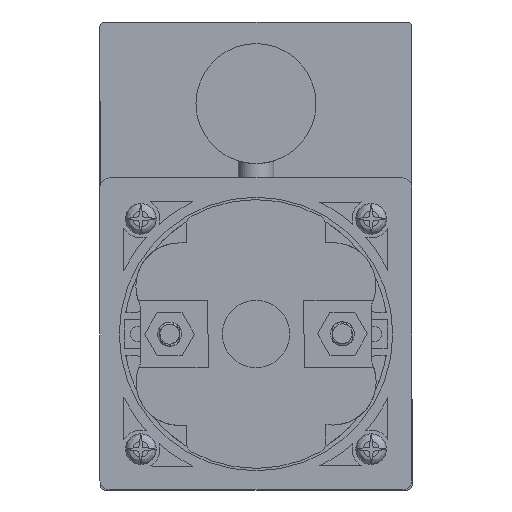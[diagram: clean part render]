
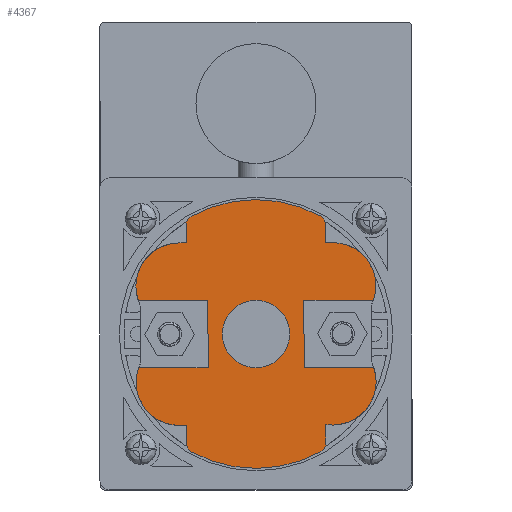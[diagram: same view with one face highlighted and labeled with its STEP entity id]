
A CAD part, front view. The second image highlights one B-rep face of the part: STEP entity #4367.
In plain terms, the highlighted planar face has unit normal (0, -1, 0).
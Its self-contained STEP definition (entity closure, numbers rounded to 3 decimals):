
#4367=ADVANCED_FACE('',(#10052,#10053),#5499,.F.);
#5499=PLANE('',#30226);
#7232=LINE('',#93822,#9218);
#7233=LINE('',#93827,#9219);
#7234=LINE('',#93829,#9220);
#7235=LINE('',#93837,#9221);
#7236=LINE('',#93841,#9222);
#7237=LINE('',#93845,#9223);
#7238=LINE('',#93847,#9224);
#7239=LINE('',#93849,#9225);
#7240=LINE('',#93853,#9226);
#7241=LINE('',#93855,#9227);
#7242=LINE('',#93863,#9228);
#7243=LINE('',#93865,#9229);
#7244=LINE('',#93869,#9230);
#7245=LINE('',#93871,#9231);
#9218=VECTOR('',#36208,1.);
#9219=VECTOR('',#36211,1.);
#9220=VECTOR('',#36212,1.);
#9221=VECTOR('',#36219,1.);
#9222=VECTOR('',#36222,1.);
#9223=VECTOR('',#36225,1.);
#9224=VECTOR('',#36226,1.);
#9225=VECTOR('',#36227,1.);
#9226=VECTOR('',#36230,1.);
#9227=VECTOR('',#36231,1.);
#9228=VECTOR('',#36238,1.);
#9229=VECTOR('',#36239,1.);
#9230=VECTOR('',#36242,1.);
#9231=VECTOR('',#36243,1.);
#10052=FACE_BOUND('',#11491,.T.);
#10053=FACE_BOUND('',#11492,.T.);
#11491=EDGE_LOOP('',(#17824,#17825,#17826,#17827,#17828,#17829,#17830,#17831,
#17832,#17833,#17834,#17835,#17836,#17837,#17838,#17839,#17840,#17841,#17842,
#17843,#17844,#17845,#17846,#17847,#17848));
#11492=EDGE_LOOP('',(#17849));
#17824=ORIENTED_EDGE('',*,*,#26095,.F.);
#17825=ORIENTED_EDGE('',*,*,#26096,.T.);
#17826=ORIENTED_EDGE('',*,*,#26097,.T.);
#17827=ORIENTED_EDGE('',*,*,#26098,.T.);
#17828=ORIENTED_EDGE('',*,*,#26099,.T.);
#17829=ORIENTED_EDGE('',*,*,#26100,.T.);
#17830=ORIENTED_EDGE('',*,*,#26101,.T.);
#17831=ORIENTED_EDGE('',*,*,#26102,.T.);
#17832=ORIENTED_EDGE('',*,*,#26103,.T.);
#17833=ORIENTED_EDGE('',*,*,#26104,.T.);
#17834=ORIENTED_EDGE('',*,*,#26105,.T.);
#17835=ORIENTED_EDGE('',*,*,#26106,.F.);
#17836=ORIENTED_EDGE('',*,*,#26107,.F.);
#17837=ORIENTED_EDGE('',*,*,#26108,.F.);
#17838=ORIENTED_EDGE('',*,*,#26109,.T.);
#17839=ORIENTED_EDGE('',*,*,#26110,.T.);
#17840=ORIENTED_EDGE('',*,*,#26111,.T.);
#17841=ORIENTED_EDGE('',*,*,#26112,.T.);
#17842=ORIENTED_EDGE('',*,*,#26113,.T.);
#17843=ORIENTED_EDGE('',*,*,#26114,.T.);
#17844=ORIENTED_EDGE('',*,*,#26115,.T.);
#17845=ORIENTED_EDGE('',*,*,#26116,.T.);
#17846=ORIENTED_EDGE('',*,*,#26117,.T.);
#17847=ORIENTED_EDGE('',*,*,#26118,.F.);
#17848=ORIENTED_EDGE('',*,*,#26119,.F.);
#17849=ORIENTED_EDGE('',*,*,#26120,.F.);
#22366=VERTEX_POINT('',#93823);
#22367=VERTEX_POINT('',#93824);
#22368=VERTEX_POINT('',#93826);
#22369=VERTEX_POINT('',#93828);
#22370=VERTEX_POINT('',#93830);
#22371=VERTEX_POINT('',#93832);
#22372=VERTEX_POINT('',#93834);
#22373=VERTEX_POINT('',#93836);
#22374=VERTEX_POINT('',#93838);
#22375=VERTEX_POINT('',#93840);
#22376=VERTEX_POINT('',#93842);
#22377=VERTEX_POINT('',#93844);
#22378=VERTEX_POINT('',#93846);
#22379=VERTEX_POINT('',#93848);
#22380=VERTEX_POINT('',#93850);
#22381=VERTEX_POINT('',#93852);
#22382=VERTEX_POINT('',#93854);
#22383=VERTEX_POINT('',#93856);
#22384=VERTEX_POINT('',#93858);
#22385=VERTEX_POINT('',#93860);
#22386=VERTEX_POINT('',#93862);
#22387=VERTEX_POINT('',#93864);
#22388=VERTEX_POINT('',#93866);
#22389=VERTEX_POINT('',#93868);
#22390=VERTEX_POINT('',#93870);
#22391=VERTEX_POINT('',#93873);
#26095=EDGE_CURVE('',#22366,#22367,#7232,.T.);
#26096=EDGE_CURVE('',#22366,#22368,#28030,.T.);
#26097=EDGE_CURVE('',#22368,#22369,#7233,.T.);
#26098=EDGE_CURVE('',#22369,#22370,#7234,.T.);
#26099=EDGE_CURVE('',#22370,#22371,#28031,.T.);
#26100=EDGE_CURVE('',#22371,#22372,#28032,.T.);
#26101=EDGE_CURVE('',#22372,#22373,#28033,.T.);
#26102=EDGE_CURVE('',#22373,#22374,#7235,.T.);
#26103=EDGE_CURVE('',#22374,#22375,#28034,.T.);
#26104=EDGE_CURVE('',#22375,#22376,#7236,.T.);
#26105=EDGE_CURVE('',#22376,#22377,#28035,.T.);
#26106=EDGE_CURVE('',#22378,#22377,#7237,.T.);
#26107=EDGE_CURVE('',#22379,#22378,#7238,.T.);
#26108=EDGE_CURVE('',#22380,#22379,#7239,.T.);
#26109=EDGE_CURVE('',#22380,#22381,#28036,.T.);
#26110=EDGE_CURVE('',#22381,#22382,#7240,.T.);
#26111=EDGE_CURVE('',#22382,#22383,#7241,.T.);
#26112=EDGE_CURVE('',#22383,#22384,#28037,.T.);
#26113=EDGE_CURVE('',#22384,#22385,#28038,.T.);
#26114=EDGE_CURVE('',#22385,#22386,#28039,.T.);
#26115=EDGE_CURVE('',#22386,#22387,#7242,.T.);
#26116=EDGE_CURVE('',#22387,#22388,#7243,.T.);
#26117=EDGE_CURVE('',#22388,#22389,#28040,.T.);
#26118=EDGE_CURVE('',#22390,#22389,#7244,.T.);
#26119=EDGE_CURVE('',#22367,#22390,#7245,.T.);
#26120=EDGE_CURVE('',#22391,#22391,#28041,.T.);
#28030=CIRCLE('',#30214,9.);
#28031=CIRCLE('',#30215,2.);
#28032=CIRCLE('',#30216,28.);
#28033=CIRCLE('',#30217,2.);
#28034=CIRCLE('',#30218,8.96);
#28035=CIRCLE('',#30219,9.);
#28036=CIRCLE('',#30220,9.);
#28037=CIRCLE('',#30221,2.);
#28038=CIRCLE('',#30222,28.);
#28039=CIRCLE('',#30223,2.);
#28040=CIRCLE('',#30224,9.);
#28041=CIRCLE('',#30225,7.);
#30214=AXIS2_PLACEMENT_3D('',#93825,#36209,#36210);
#30215=AXIS2_PLACEMENT_3D('',#93831,#36213,#36214);
#30216=AXIS2_PLACEMENT_3D('',#93833,#36215,#36216);
#30217=AXIS2_PLACEMENT_3D('',#93835,#36217,#36218);
#30218=AXIS2_PLACEMENT_3D('',#93839,#36220,#36221);
#30219=AXIS2_PLACEMENT_3D('',#93843,#36223,#36224);
#30220=AXIS2_PLACEMENT_3D('',#93851,#36228,#36229);
#30221=AXIS2_PLACEMENT_3D('',#93857,#36232,#36233);
#30222=AXIS2_PLACEMENT_3D('',#93859,#36234,#36235);
#30223=AXIS2_PLACEMENT_3D('',#93861,#36236,#36237);
#30224=AXIS2_PLACEMENT_3D('',#93867,#36240,#36241);
#30225=AXIS2_PLACEMENT_3D('',#93872,#36244,#36245);
#30226=AXIS2_PLACEMENT_3D('',#93874,#36246,#36247);
#36208=DIRECTION('',(1.,0.,0.003));
#36209=DIRECTION('',(0.,-1.,0.));
#36210=DIRECTION('',(-0.89,0.,0.456));
#36211=DIRECTION('',(1.,0.,0.003));
#36212=DIRECTION('',(0.003,0.,-1.));
#36213=DIRECTION('',(0.,-1.,0.));
#36214=DIRECTION('',(1.,0.,0.003));
#36215=DIRECTION('',(0.,-1.,0.));
#36216=DIRECTION('',(1.,0.,0.003));
#36217=DIRECTION('',(0.,-1.,0.));
#36218=DIRECTION('',(1.,0.,0.003));
#36219=DIRECTION('',(-0.003,0.,1.));
#36220=DIRECTION('',(0.,-1.,0.));
#36221=DIRECTION('',(0.,0.,-1.));
#36222=DIRECTION('',(1.,0.,0.003));
#36223=DIRECTION('',(0.,-1.,0.));
#36224=DIRECTION('',(0.,0.,-1.));
#36225=DIRECTION('',(1.,0.,0.003));
#36226=DIRECTION('',(0.003,0.,-1.));
#36227=DIRECTION('',(-1.,0.,-0.003));
#36228=DIRECTION('',(0.,-1.,0.));
#36229=DIRECTION('',(1.,0.,0.003));
#36230=DIRECTION('',(-1.,0.,-0.003));
#36231=DIRECTION('',(-0.003,0.,1.));
#36232=DIRECTION('',(0.,-1.,0.));
#36233=DIRECTION('',(1.,0.,0.003));
#36234=DIRECTION('',(0.,-1.,0.));
#36235=DIRECTION('',(1.,0.,0.003));
#36236=DIRECTION('',(0.,-1.,0.));
#36237=DIRECTION('',(1.,0.,0.003));
#36238=DIRECTION('',(0.003,0.,-1.));
#36239=DIRECTION('',(-1.,0.,-0.003));
#36240=DIRECTION('',(0.,-1.,0.));
#36241=DIRECTION('',(-1.,0.,-0.003));
#36242=DIRECTION('',(-1.,0.,-0.003));
#36243=DIRECTION('',(-0.003,0.,1.));
#36244=DIRECTION('',(0.,-1.,0.));
#36245=DIRECTION('',(-1.,0.,-0.003));
#36246=DIRECTION('',(0.,1.,0.));
#36247=DIRECTION('',(0.,0.,1.));
#93822=CARTESIAN_POINT('',(-34.164,-108.1,-7.088));
#93823=CARTESIAN_POINT('',(-24.468,-108.1,-7.063));
#93824=CARTESIAN_POINT('',(-9.982,-108.1,-7.026));
#93825=CARTESIAN_POINT('',(-15.974,-108.1,-10.041));
#93826=CARTESIAN_POINT('',(-15.951,-108.1,-19.041));
#93827=CARTESIAN_POINT('',(23.753,-108.1,-18.934));
#93828=CARTESIAN_POINT('',(-14.451,-108.1,-19.037));
#93829=CARTESIAN_POINT('',(-14.451,-108.1,-19.037));
#93830=CARTESIAN_POINT('',(-14.441,-108.1,-22.835));
#93831=CARTESIAN_POINT('',(-12.441,-108.1,-22.83));
#93832=CARTESIAN_POINT('',(-13.398,-108.1,-24.586));
#93833=CARTESIAN_POINT('',(0.,-108.1,0.));
#93834=CARTESIAN_POINT('',(13.525,-108.1,-24.517));
#93835=CARTESIAN_POINT('',(12.558,-108.1,-22.766));
#93836=CARTESIAN_POINT('',(14.558,-108.1,-22.761));
#93837=CARTESIAN_POINT('',(14.558,-108.1,-22.761));
#93838=CARTESIAN_POINT('',(14.548,-108.1,-18.837));
#93839=CARTESIAN_POINT('',(16.02,-108.1,-9.999));
#93840=CARTESIAN_POINT('',(15.978,-108.1,-18.959));
#93841=CARTESIAN_POINT('',(23.752,-108.1,-18.938));
#93842=CARTESIAN_POINT('',(16.119,-108.1,-18.958));
#93843=CARTESIAN_POINT('',(16.026,-108.1,-9.959));
#93844=CARTESIAN_POINT('',(24.503,-108.1,-6.937));
#93845=CARTESIAN_POINT('',(10.018,-108.1,-6.974));
#93846=CARTESIAN_POINT('',(10.018,-108.1,-6.974));
#93847=CARTESIAN_POINT('',(9.982,-108.1,7.026));
#93848=CARTESIAN_POINT('',(9.982,-108.1,7.026));
#93849=CARTESIAN_POINT('',(34.164,-108.1,7.088));
#93850=CARTESIAN_POINT('',(24.467,-108.1,7.063));
#93851=CARTESIAN_POINT('',(15.974,-108.1,10.041));
#93852=CARTESIAN_POINT('',(15.951,-108.1,19.041));
#93853=CARTESIAN_POINT('',(15.951,-108.1,19.041));
#93854=CARTESIAN_POINT('',(14.451,-108.1,19.037));
#93855=CARTESIAN_POINT('',(14.451,-108.1,19.037));
#93856=CARTESIAN_POINT('',(14.441,-108.1,22.835));
#93857=CARTESIAN_POINT('',(12.441,-108.1,22.83));
#93858=CARTESIAN_POINT('',(13.398,-108.1,24.586));
#93859=CARTESIAN_POINT('',(0.,-108.1,0.));
#93860=CARTESIAN_POINT('',(-13.525,-108.1,24.517));
#93861=CARTESIAN_POINT('',(-12.558,-108.1,22.766));
#93862=CARTESIAN_POINT('',(-14.558,-108.1,22.761));
#93863=CARTESIAN_POINT('',(-14.558,-108.1,22.761));
#93864=CARTESIAN_POINT('',(-14.549,-108.1,18.963));
#93865=CARTESIAN_POINT('',(-14.549,-108.1,18.963));
#93866=CARTESIAN_POINT('',(-16.049,-108.1,18.959));
#93867=CARTESIAN_POINT('',(-16.026,-108.1,9.959));
#93868=CARTESIAN_POINT('',(-24.503,-108.1,6.937));
#93869=CARTESIAN_POINT('',(-10.018,-108.1,6.974));
#93870=CARTESIAN_POINT('',(-10.018,-108.1,6.974));
#93871=CARTESIAN_POINT('',(-9.982,-108.1,-7.026));
#93872=CARTESIAN_POINT('',(0.,-108.1,0.));
#93873=CARTESIAN_POINT('',(-7.,-108.1,-0.018));
#93874=CARTESIAN_POINT('',(23.741,-108.1,-14.593));
